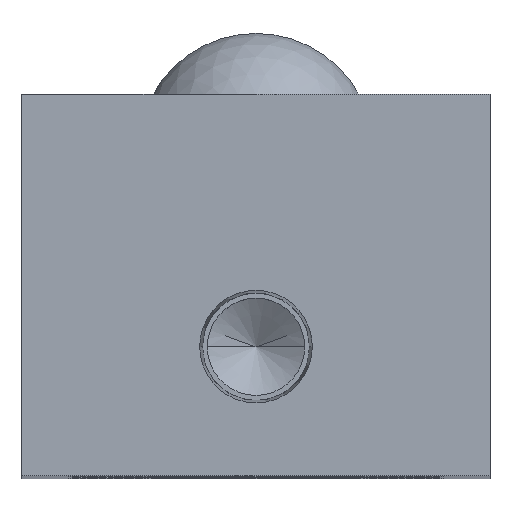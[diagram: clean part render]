
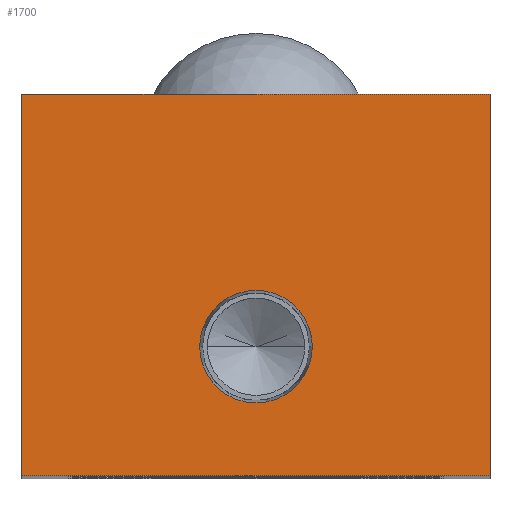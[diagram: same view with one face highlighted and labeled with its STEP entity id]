
A CAD part, top view. The second image highlights one B-rep face of the part: STEP entity #1700.
In plain terms, the highlighted planar face has unit normal (0, 0, 1).
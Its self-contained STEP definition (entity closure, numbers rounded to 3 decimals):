
#14 = LINE ( 'NONE', #2825, #1858 ) ;
#18 = VECTOR ( 'NONE', #2511, 1000. ) ;
#57 = PLANE ( 'NONE',  #2457 ) ;
#116 = CARTESIAN_POINT ( 'NONE',  ( -19., 0., 0. ) ) ;
#273 = DIRECTION ( 'NONE',  ( -1., 0., 0. ) ) ;
#339 = CARTESIAN_POINT ( 'NONE',  ( -19., 31., 0. ) ) ;
#421 = DIRECTION ( 'NONE',  ( 0., 0., 1. ) ) ;
#536 = LINE ( 'NONE', #116, #2755 ) ;
#618 = EDGE_CURVE ( 'NONE', #2824, #1655, #536, .T. ) ;
#627 = ORIENTED_EDGE ( 'NONE', *, *, #1544, .T. ) ;
#667 = VECTOR ( 'NONE', #1710, 1000. ) ;
#823 = CARTESIAN_POINT ( 'NONE',  ( 19., 0., 0. ) ) ;
#879 = AXIS2_PLACEMENT_3D ( 'NONE', #1757, #421, #1995 ) ;
#921 = CARTESIAN_POINT ( 'NONE',  ( 0., 0., 0. ) ) ;
#977 = CIRCLE ( 'NONE', #879, 4.574 ) ;
#987 = CARTESIAN_POINT ( 'NONE',  ( 0., 10.5, 0. ) ) ;
#990 = EDGE_CURVE ( 'NONE', #2059, #1268, #1784, .T. ) ;
#1113 = ORIENTED_EDGE ( 'NONE', *, *, #1514, .T. ) ;
#1175 = CARTESIAN_POINT ( 'NONE',  ( 19., 31., 0. ) ) ;
#1212 = DIRECTION ( 'NONE',  ( 1., 0., 0. ) ) ;
#1268 = VERTEX_POINT ( 'NONE', #1616 ) ;
#1273 = LINE ( 'NONE', #823, #667 ) ;
#1391 = CARTESIAN_POINT ( 'NONE',  ( 19., 0., 0. ) ) ;
#1511 = DIRECTION ( 'NONE',  ( -1., 0., 0. ) ) ;
#1514 = EDGE_CURVE ( 'NONE', #1655, #2059, #1273, .T. ) ;
#1544 = EDGE_CURVE ( 'NONE', #1268, #2824, #14, .T. ) ;
#1582 = CARTESIAN_POINT ( 'NONE',  ( -19., 0., 0. ) ) ;
#1605 = DIRECTION ( 'NONE',  ( 0., 0., -1. ) ) ;
#1616 = CARTESIAN_POINT ( 'NONE',  ( 19., 31., 0. ) ) ;
#1655 = VERTEX_POINT ( 'NONE', #1582 ) ;
#1700 = ADVANCED_FACE ( 'NONE', ( #2101, #2557 ), #57, .F. ) ;
#1710 = DIRECTION ( 'NONE',  ( 1., 0., 0. ) ) ;
#1757 = CARTESIAN_POINT ( 'NONE',  ( 0., 10.5, 0. ) ) ;
#1784 = LINE ( 'NONE', #1175, #18 ) ;
#1792 = EDGE_LOOP ( 'NONE', ( #1807, #1942 ) ) ;
#1807 = ORIENTED_EDGE ( 'NONE', *, *, #2786, .F. ) ;
#1858 = VECTOR ( 'NONE', #1511, 1000. ) ;
#1917 = CIRCLE ( 'NONE', #2172, 4.574 ) ;
#1942 = ORIENTED_EDGE ( 'NONE', *, *, #2451, .F. ) ;
#1995 = DIRECTION ( 'NONE',  ( 1., 0., 0. ) ) ;
#2013 = CARTESIAN_POINT ( 'NONE',  ( 4.574, 10.5, 0. ) ) ;
#2059 = VERTEX_POINT ( 'NONE', #1391 ) ;
#2099 = DIRECTION ( 'NONE',  ( 0., -1., 0. ) ) ;
#2101 = FACE_BOUND ( 'NONE', #1792, .T. ) ;
#2172 = AXIS2_PLACEMENT_3D ( 'NONE', #987, #2548, #1212 ) ;
#2294 = ORIENTED_EDGE ( 'NONE', *, *, #990, .T. ) ;
#2324 = VERTEX_POINT ( 'NONE', #2808 ) ;
#2451 = EDGE_CURVE ( 'NONE', #2324, #2579, #977, .T. ) ;
#2457 = AXIS2_PLACEMENT_3D ( 'NONE', #921, #1605, #273 ) ;
#2511 = DIRECTION ( 'NONE',  ( 0., 1., 0. ) ) ;
#2548 = DIRECTION ( 'NONE',  ( 0., 0., 1. ) ) ;
#2557 = FACE_OUTER_BOUND ( 'NONE', #2758, .T. ) ;
#2579 = VERTEX_POINT ( 'NONE', #2013 ) ;
#2695 = ORIENTED_EDGE ( 'NONE', *, *, #618, .T. ) ;
#2755 = VECTOR ( 'NONE', #2099, 1000. ) ;
#2758 = EDGE_LOOP ( 'NONE', ( #2695, #1113, #2294, #627 ) ) ;
#2786 = EDGE_CURVE ( 'NONE', #2579, #2324, #1917, .T. ) ;
#2808 = CARTESIAN_POINT ( 'NONE',  ( -4.574, 10.5, 0. ) ) ;
#2824 = VERTEX_POINT ( 'NONE', #339 ) ;
#2825 = CARTESIAN_POINT ( 'NONE',  ( -19., 31., 0. ) ) ;
